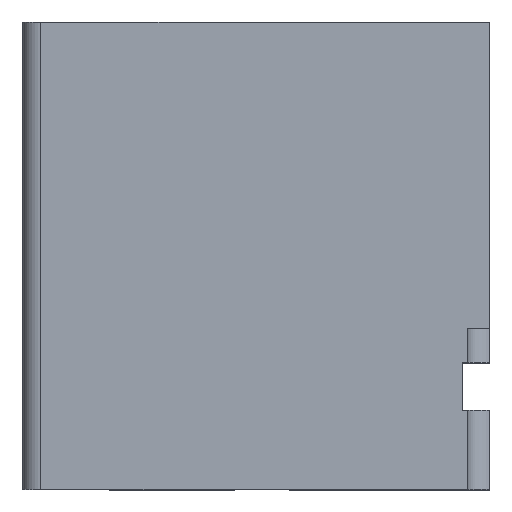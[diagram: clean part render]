
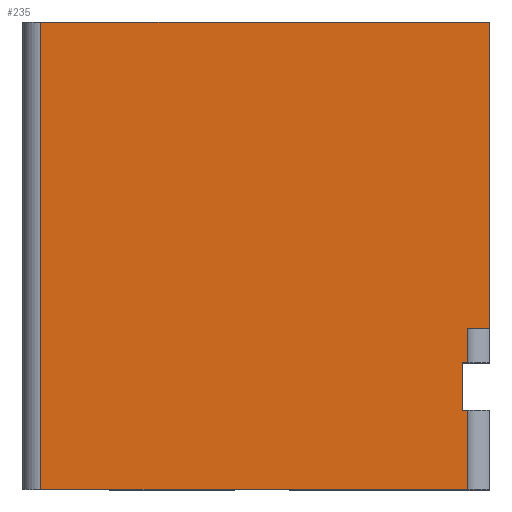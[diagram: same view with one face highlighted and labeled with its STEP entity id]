
A CAD part, top view. The second image highlights one B-rep face of the part: STEP entity #235.
In plain terms, the highlighted planar face has unit normal (0, 0, 1).
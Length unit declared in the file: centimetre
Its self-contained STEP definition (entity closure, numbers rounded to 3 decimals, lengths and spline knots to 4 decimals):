
#15 = LINE ( 'NONE', #1004, #732 ) ;
#17 = CARTESIAN_POINT ( 'NONE',  ( 0., 344.5576, 1000. ) ) ;
#22 = CARTESIAN_POINT ( 'NONE',  ( 941.1475, 169.4174, 1000. ) ) ;
#44 = EDGE_CURVE ( 'NONE', #1359, #1127, #1115, .T. ) ;
#122 = DIRECTION ( 'NONE',  ( 0., -1., 0. ) ) ;
#137 = LINE ( 'NONE', #17, #1576 ) ;
#158 = DIRECTION ( 'NONE',  ( 0., -1., 0. ) ) ;
#181 = VECTOR ( 'NONE', #1404, 100. ) ;
#198 = DIRECTION ( 'NONE',  ( 1., 0., 0. ) ) ;
#203 = VERTEX_POINT ( 'NONE', #691 ) ;
#209 = VECTOR ( 'NONE', #339, 100. ) ;
#210 = LINE ( 'NONE', #836, #209 ) ;
#235 = ADVANCED_FACE ( 'NONE', ( #1045 ), #1152, .T. ) ;
#256 = EDGE_CURVE ( 'NONE', #844, #667, #445, .T. ) ;
#262 = EDGE_LOOP ( 'NONE', ( #597, #921, #1511, #324, #1475, #1263, #1338, #1559, #1156, #1106 ) ) ;
#287 = LINE ( 'NONE', #504, #1467 ) ;
#311 = CARTESIAN_POINT ( 'NONE',  ( 0., 0., 1000. ) ) ;
#324 = ORIENTED_EDGE ( 'NONE', *, *, #931, .T. ) ;
#339 = DIRECTION ( 'NONE',  ( 0., -1., 0. ) ) ;
#379 = CARTESIAN_POINT ( 'NONE',  ( 953.0625, 270.6556, 1000. ) ) ;
#408 = EDGE_CURVE ( 'NONE', #894, #1529, #583, .T. ) ;
#415 = DIRECTION ( 'NONE',  ( 1., 0., 0. ) ) ;
#442 = VERTEX_POINT ( 'NONE', #820 ) ;
#445 = LINE ( 'NONE', #311, #980 ) ;
#483 = VECTOR ( 'NONE', #158, 100. ) ;
#504 = CARTESIAN_POINT ( 'NONE',  ( 953.0625, 344.5576, 1000. ) ) ;
#547 = CARTESIAN_POINT ( 'NONE',  ( 39.3453, 0., 1000. ) ) ;
#553 = CARTESIAN_POINT ( 'NONE',  ( 941.1475, 270.6556, 1000. ) ) ;
#583 = LINE ( 'NONE', #1548, #1052 ) ;
#589 = VERTEX_POINT ( 'NONE', #379 ) ;
#597 = ORIENTED_EDGE ( 'NONE', *, *, #712, .F. ) ;
#605 = EDGE_CURVE ( 'NONE', #442, #667, #287, .T. ) ;
#606 = CARTESIAN_POINT ( 'NONE',  ( 39.3453, 1000., 1000. ) ) ;
#608 = VECTOR ( 'NONE', #1262, 100. ) ;
#614 = EDGE_CURVE ( 'NONE', #203, #1459, #137, .T. ) ;
#660 = EDGE_CURVE ( 'NONE', #1127, #442, #1141, .T. ) ;
#667 = VERTEX_POINT ( 'NONE', #1510 ) ;
#691 = CARTESIAN_POINT ( 'NONE',  ( 953.0625, 344.5576, 1000. ) ) ;
#712 = EDGE_CURVE ( 'NONE', #589, #1359, #15, .T. ) ;
#732 = VECTOR ( 'NONE', #866, 100. ) ;
#820 = CARTESIAN_POINT ( 'NONE',  ( 953.0625, 169.4174, 1000. ) ) ;
#826 = CARTESIAN_POINT ( 'NONE',  ( 953.0625, 344.5576, 1000. ) ) ;
#836 = CARTESIAN_POINT ( 'NONE',  ( 39.3453, 0., 1000. ) ) ;
#844 = VERTEX_POINT ( 'NONE', #547 ) ;
#866 = DIRECTION ( 'NONE',  ( -1., 0., 0. ) ) ;
#875 = CARTESIAN_POINT ( 'NONE',  ( 941.1475, 169.4174, 1000. ) ) ;
#879 = AXIS2_PLACEMENT_3D ( 'NONE', #1519, #1182, #415 ) ;
#894 = VERTEX_POINT ( 'NONE', #1269 ) ;
#921 = ORIENTED_EDGE ( 'NONE', *, *, #1558, .F. ) ;
#931 = EDGE_CURVE ( 'NONE', #1459, #894, #1545, .T. ) ;
#943 = DIRECTION ( 'NONE',  ( -1., 0., 0. ) ) ;
#976 = DIRECTION ( 'NONE',  ( 0., -1., 0. ) ) ;
#977 = DIRECTION ( 'NONE',  ( 1., 0., 0. ) ) ;
#980 = VECTOR ( 'NONE', #198, 100. ) ;
#1004 = CARTESIAN_POINT ( 'NONE',  ( 941.1475, 270.6556, 1000. ) ) ;
#1025 = EDGE_CURVE ( 'NONE', #1529, #844, #210, .T. ) ;
#1045 = FACE_OUTER_BOUND ( 'NONE', #262, .T. ) ;
#1052 = VECTOR ( 'NONE', #943, 100. ) ;
#1094 = CARTESIAN_POINT ( 'NONE',  ( 1000., 344.5576, 1000. ) ) ;
#1106 = ORIENTED_EDGE ( 'NONE', *, *, #44, .F. ) ;
#1115 = LINE ( 'NONE', #875, #483 ) ;
#1127 = VERTEX_POINT ( 'NONE', #22 ) ;
#1141 = LINE ( 'NONE', #1517, #608 ) ;
#1152 = PLANE ( 'NONE',  #879 ) ;
#1156 = ORIENTED_EDGE ( 'NONE', *, *, #660, .F. ) ;
#1182 = DIRECTION ( 'NONE',  ( 0., 0., 1. ) ) ;
#1189 = LINE ( 'NONE', #826, #1371 ) ;
#1262 = DIRECTION ( 'NONE',  ( 1., 0., 0. ) ) ;
#1263 = ORIENTED_EDGE ( 'NONE', *, *, #1025, .T. ) ;
#1269 = CARTESIAN_POINT ( 'NONE',  ( 1000., 1000., 1000. ) ) ;
#1338 = ORIENTED_EDGE ( 'NONE', *, *, #256, .T. ) ;
#1359 = VERTEX_POINT ( 'NONE', #553 ) ;
#1371 = VECTOR ( 'NONE', #976, 100. ) ;
#1404 = DIRECTION ( 'NONE',  ( 0., 1., 0. ) ) ;
#1459 = VERTEX_POINT ( 'NONE', #1094 ) ;
#1467 = VECTOR ( 'NONE', #122, 100. ) ;
#1475 = ORIENTED_EDGE ( 'NONE', *, *, #408, .T. ) ;
#1510 = CARTESIAN_POINT ( 'NONE',  ( 953.0625, 0., 1000. ) ) ;
#1511 = ORIENTED_EDGE ( 'NONE', *, *, #614, .T. ) ;
#1515 = CARTESIAN_POINT ( 'NONE',  ( 1000., 1000., 1000. ) ) ;
#1517 = CARTESIAN_POINT ( 'NONE',  ( 941.1475, 169.4174, 1000. ) ) ;
#1519 = CARTESIAN_POINT ( 'NONE',  ( 0., 0., 1000. ) ) ;
#1529 = VERTEX_POINT ( 'NONE', #606 ) ;
#1545 = LINE ( 'NONE', #1515, #181 ) ;
#1548 = CARTESIAN_POINT ( 'NONE',  ( 0., 1000., 1000. ) ) ;
#1558 = EDGE_CURVE ( 'NONE', #203, #589, #1189, .T. ) ;
#1559 = ORIENTED_EDGE ( 'NONE', *, *, #605, .F. ) ;
#1576 = VECTOR ( 'NONE', #977, 100. ) ;
